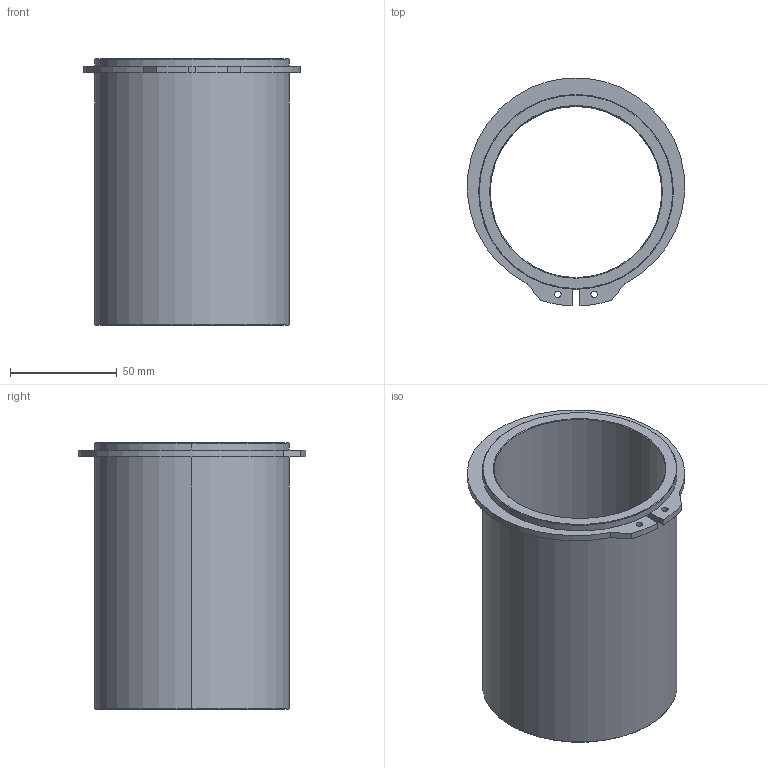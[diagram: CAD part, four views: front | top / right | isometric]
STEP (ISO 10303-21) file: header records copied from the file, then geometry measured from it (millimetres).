
FILE_DESCRIPTION((''),'2;1');
FILE_NAME('C13_080_125.stp','2008-12-17T15:03:43',(''),(''),'Mechanical Desktop 2009','Mechanical Desktop 2009',', , ');
FILE_SCHEMA(('CONFIG_CONTROL_DESIGN'));
Length unit declared in the file: millimetre
Products named in the file (2): Product; blmdl1
Assembly tree (1 placements, depth 2):
  Product
    blmdl1
Bounding box: 101.73 x 106.65 x 125 mm (x, y, z)
Volume: 188849.6 mm3; surface area: 77186.9 mm2
Topology: 2 solids, 2 shells, 34 faces, 76 edges, 48 vertices
Faces by surface type: cylinder 16, plane 10, cone 8
Entity records: 1075 total; most frequent: DIRECTION 188, CARTESIAN_POINT 160, ORIENTED_EDGE 152, AXIS2_PLACEMENT_3D 76, EDGE_CURVE 76, VERTEX_POINT 48, EDGE_LOOP 42, CIRCLE 40
